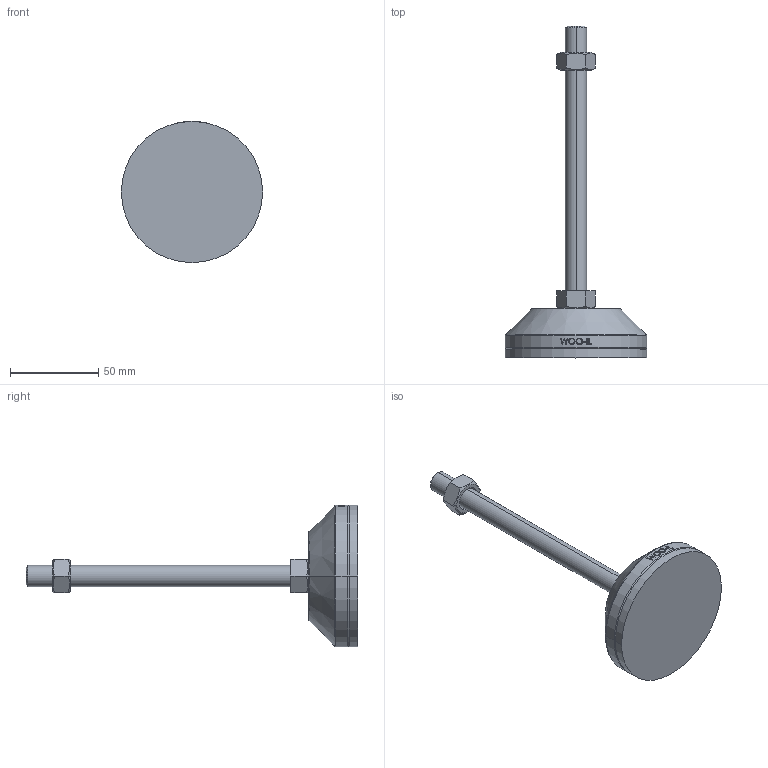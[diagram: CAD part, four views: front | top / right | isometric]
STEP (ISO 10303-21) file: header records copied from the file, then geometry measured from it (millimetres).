
FILE_DESCRIPTION (( 'STEP AP214' ), '1' );
FILE_NAME ('NHNR80-M12-150.step', '2021-01-25T06:21:04', ( '' ), ( '' ), 'SwSTEP 2.0', 'SolidWorks 2019', '' );
FILE_SCHEMA (( 'AUTOMOTIVE_DESIGN' ));
Length unit declared in the file: millimetre
Products named in the file (2): NHNR80-M12-150
Bounding box: 80 x 188 x 80 mm (x, y, z)
Volume: 137226.8 mm3; surface area: 33044.3 mm2
Topology: 4 solids, 4 shells, 105 faces, 239 edges, 152 vertices
Faces by surface type: plane 49, cylinder 18, bspline 16, cone 14, torus 8
Entity records: 4363 total; most frequent: CARTESIAN_POINT 2046, ORIENTED_EDGE 478, DIRECTION 429, EDGE_CURVE 239, AXIS2_PLACEMENT_3D 165, VERTEX_POINT 152, EDGE_LOOP 117, FACE_OUTER_BOUND 105
